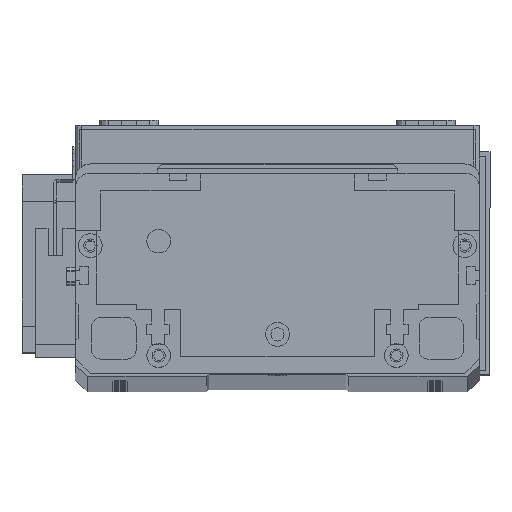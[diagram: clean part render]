
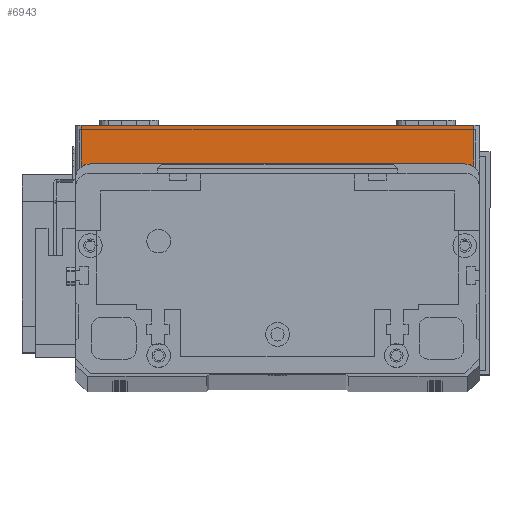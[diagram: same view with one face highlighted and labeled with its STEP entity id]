
A CAD part, top view. The second image highlights one B-rep face of the part: STEP entity #6943.
In plain terms, the highlighted planar face has unit normal (0, 0, 1) as drawn and (0, -1, 0) by its records, which use the part's own axes.
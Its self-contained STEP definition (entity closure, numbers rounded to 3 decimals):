
#307 = DIRECTION ( 'NONE',  ( 0., 0., -1. ) ) ;
#679 = VECTOR ( 'NONE', #25368, 1000. ) ;
#1006 = DIRECTION ( 'NONE',  ( 1., 0., 0. ) ) ;
#1412 = DIRECTION ( 'NONE',  ( 1., 0., 0. ) ) ;
#1732 = VERTEX_POINT ( 'NONE', #21724 ) ;
#2149 = VERTEX_POINT ( 'NONE', #9361 ) ;
#2312 = ORIENTED_EDGE ( 'NONE', *, *, #24816, .T. ) ;
#2508 = LINE ( 'NONE', #21825, #15204 ) ;
#3155 = ORIENTED_EDGE ( 'NONE', *, *, #20332, .T. ) ;
#4545 = VECTOR ( 'NONE', #1006, 1000. ) ;
#4931 = CARTESIAN_POINT ( 'NONE',  ( 0., 0., 19.5 ) ) ;
#6943 = ADVANCED_FACE ( 'NONE', ( #21148 ), #19244, .F. ) ;
#6975 = LINE ( 'NONE', #30094, #679 ) ;
#7038 = AXIS2_PLACEMENT_3D ( 'NONE', #4931, #7340, #24093 ) ;
#7340 = DIRECTION ( 'NONE',  ( 0., 1., 0. ) ) ;
#8666 = ORIENTED_EDGE ( 'NONE', *, *, #14260, .F. ) ;
#9361 = CARTESIAN_POINT ( 'NONE',  ( 2., 0., 19.5 ) ) ;
#9634 = CARTESIAN_POINT ( 'NONE',  ( 134., 0., 19.5 ) ) ;
#13002 = CARTESIAN_POINT ( 'NONE',  ( 2., 0., 0. ) ) ;
#14260 = EDGE_CURVE ( 'NONE', #2149, #26187, #29307, .T. ) ;
#15204 = VECTOR ( 'NONE', #307, 1000. ) ;
#16703 = EDGE_LOOP ( 'NONE', ( #8666, #3155, #2312, #22867 ) ) ;
#16770 = EDGE_CURVE ( 'NONE', #1732, #26187, #6975, .T. ) ;
#18179 = LINE ( 'NONE', #27678, #29445 ) ;
#19244 = PLANE ( 'NONE',  #7038 ) ;
#20332 = EDGE_CURVE ( 'NONE', #2149, #28656, #2508, .T. ) ;
#21148 = FACE_OUTER_BOUND ( 'NONE', #16703, .T. ) ;
#21724 = CARTESIAN_POINT ( 'NONE',  ( 134., 0., 0. ) ) ;
#21825 = CARTESIAN_POINT ( 'NONE',  ( 2., 0., 19.5 ) ) ;
#22867 = ORIENTED_EDGE ( 'NONE', *, *, #16770, .T. ) ;
#24093 = DIRECTION ( 'NONE',  ( 0., 0., 1. ) ) ;
#24816 = EDGE_CURVE ( 'NONE', #28656, #1732, #18179, .T. ) ;
#25368 = DIRECTION ( 'NONE',  ( 0., 0., 1. ) ) ;
#26187 = VERTEX_POINT ( 'NONE', #9634 ) ;
#27678 = CARTESIAN_POINT ( 'NONE',  ( 0., 0., 0. ) ) ;
#28656 = VERTEX_POINT ( 'NONE', #13002 ) ;
#29307 = LINE ( 'NONE', #29687, #4545 ) ;
#29445 = VECTOR ( 'NONE', #1412, 1000. ) ;
#29687 = CARTESIAN_POINT ( 'NONE',  ( 0., 0., 19.5 ) ) ;
#30094 = CARTESIAN_POINT ( 'NONE',  ( 134., 0., 19.5 ) ) ;
